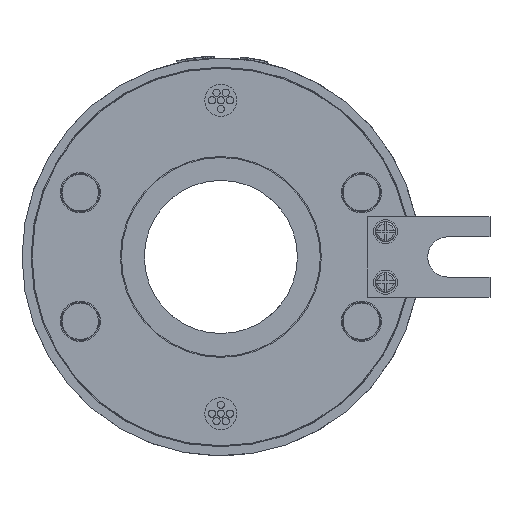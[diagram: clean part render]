
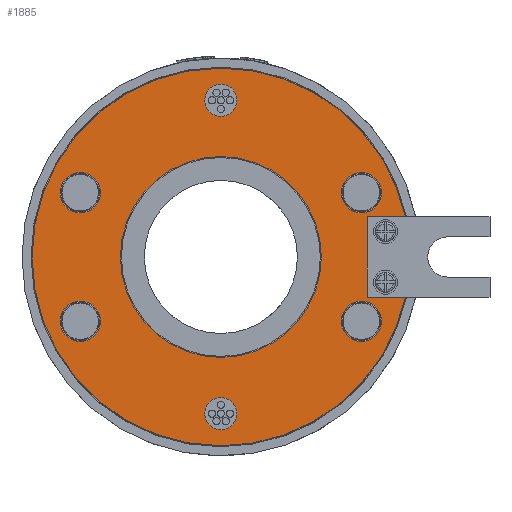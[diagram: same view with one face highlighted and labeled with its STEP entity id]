
A CAD part, front view. The second image highlights one B-rep face of the part: STEP entity #1885.
In plain terms, the highlighted planar face has unit normal (0, -1, 0).
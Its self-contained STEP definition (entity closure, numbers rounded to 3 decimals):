
#320=FACE_BOUND('',#3681,.T.);
#321=FACE_BOUND('',#3682,.T.);
#322=FACE_BOUND('',#3683,.T.);
#323=FACE_BOUND('',#3684,.T.);
#324=FACE_BOUND('',#3685,.T.);
#325=FACE_BOUND('',#3686,.T.);
#326=FACE_BOUND('',#3687,.T.);
#327=FACE_BOUND('',#3688,.T.);
#526=CIRCLE('',#10777,47.);
#527=CIRCLE('',#10778,47.);
#528=CIRCLE('',#10779,47.);
#529=CIRCLE('',#10780,4.);
#530=CIRCLE('',#10781,4.);
#531=CIRCLE('',#10782,25.);
#532=CIRCLE('',#10783,25.);
#533=CIRCLE('',#10784,5.);
#534=CIRCLE('',#10785,5.);
#535=CIRCLE('',#10786,5.);
#536=CIRCLE('',#10787,5.);
#537=CIRCLE('',#10788,5.);
#538=CIRCLE('',#10789,5.);
#539=CIRCLE('',#10790,5.);
#540=CIRCLE('',#10791,5.);
#541=CIRCLE('',#10792,4.);
#542=CIRCLE('',#10793,4.);
#1131=PLANE('',#10794);
#1365=LINE('',#30487,#2538);
#1366=LINE('',#30489,#2539);
#1367=LINE('',#30491,#2540);
#1885=ADVANCED_FACE('',(#320,#321,#322,#323,#324,#325,#326,#327),#1131,
 .F.);
#2538=VECTOR('',#12262,1.);
#2539=VECTOR('',#12263,1.);
#2540=VECTOR('',#12264,1.);
#3681=EDGE_LOOP('',(#5430,#5431,#5432,#5433,#5434,#5435));
#3682=EDGE_LOOP('',(#5436,#5437));
#3683=EDGE_LOOP('',(#5438,#5439));
#3684=EDGE_LOOP('',(#5440,#5441));
#3685=EDGE_LOOP('',(#5442,#5443));
#3686=EDGE_LOOP('',(#5444,#5445));
#3687=EDGE_LOOP('',(#5446,#5447));
#3688=EDGE_LOOP('',(#5448,#5449));
#5430=ORIENTED_EDGE('',*,*,#8966,.T.);
#5431=ORIENTED_EDGE('',*,*,#8967,.T.);
#5432=ORIENTED_EDGE('',*,*,#8968,.F.);
#5433=ORIENTED_EDGE('',*,*,#8969,.F.);
#5434=ORIENTED_EDGE('',*,*,#8970,.T.);
#5435=ORIENTED_EDGE('',*,*,#8971,.T.);
#5436=ORIENTED_EDGE('',*,*,#8972,.F.);
#5437=ORIENTED_EDGE('',*,*,#8973,.F.);
#5438=ORIENTED_EDGE('',*,*,#8974,.F.);
#5439=ORIENTED_EDGE('',*,*,#8975,.F.);
#5440=ORIENTED_EDGE('',*,*,#8976,.F.);
#5441=ORIENTED_EDGE('',*,*,#8977,.F.);
#5442=ORIENTED_EDGE('',*,*,#8978,.T.);
#5443=ORIENTED_EDGE('',*,*,#8979,.T.);
#5444=ORIENTED_EDGE('',*,*,#8980,.F.);
#5445=ORIENTED_EDGE('',*,*,#8981,.F.);
#5446=ORIENTED_EDGE('',*,*,#8982,.T.);
#5447=ORIENTED_EDGE('',*,*,#8983,.T.);
#5448=ORIENTED_EDGE('',*,*,#8984,.T.);
#5449=ORIENTED_EDGE('',*,*,#8985,.T.);
#7718=VERTEX_POINT('',#30485);
#7719=VERTEX_POINT('',#30486);
#7720=VERTEX_POINT('',#30488);
#7721=VERTEX_POINT('',#30490);
#7722=VERTEX_POINT('',#30492);
#7723=VERTEX_POINT('',#30494);
#7724=VERTEX_POINT('',#30497);
#7725=VERTEX_POINT('',#30498);
#7726=VERTEX_POINT('',#30501);
#7727=VERTEX_POINT('',#30502);
#7728=VERTEX_POINT('',#30505);
#7729=VERTEX_POINT('',#30506);
#7730=VERTEX_POINT('',#30509);
#7731=VERTEX_POINT('',#30510);
#7732=VERTEX_POINT('',#30513);
#7733=VERTEX_POINT('',#30514);
#7734=VERTEX_POINT('',#30517);
#7735=VERTEX_POINT('',#30518);
#7736=VERTEX_POINT('',#30521);
#7737=VERTEX_POINT('',#30522);
#8966=EDGE_CURVE('',#7718,#7719,#526,.T.);
#8967=EDGE_CURVE('',#7719,#7720,#1365,.T.);
#8968=EDGE_CURVE('',#7721,#7720,#1366,.T.);
#8969=EDGE_CURVE('',#7722,#7721,#1367,.T.);
#8970=EDGE_CURVE('',#7722,#7723,#527,.T.);
#8971=EDGE_CURVE('',#7723,#7718,#528,.T.);
#8972=EDGE_CURVE('',#7724,#7725,#529,.T.);
#8973=EDGE_CURVE('',#7725,#7724,#530,.T.);
#8974=EDGE_CURVE('',#7726,#7727,#531,.T.);
#8975=EDGE_CURVE('',#7727,#7726,#532,.T.);
#8976=EDGE_CURVE('',#7728,#7729,#533,.T.);
#8977=EDGE_CURVE('',#7729,#7728,#534,.T.);
#8978=EDGE_CURVE('',#7730,#7731,#535,.T.);
#8979=EDGE_CURVE('',#7731,#7730,#536,.T.);
#8980=EDGE_CURVE('',#7732,#7733,#537,.T.);
#8981=EDGE_CURVE('',#7733,#7732,#538,.T.);
#8982=EDGE_CURVE('',#7734,#7735,#539,.T.);
#8983=EDGE_CURVE('',#7735,#7734,#540,.T.);
#8984=EDGE_CURVE('',#7736,#7737,#541,.T.);
#8985=EDGE_CURVE('',#7737,#7736,#542,.T.);
#10777=AXIS2_PLACEMENT_3D('',#30484,#12260,#12261);
#10778=AXIS2_PLACEMENT_3D('',#30493,#12265,#12266);
#10779=AXIS2_PLACEMENT_3D('',#30495,#12267,#12268);
#10780=AXIS2_PLACEMENT_3D('',#30496,#12269,#12270);
#10781=AXIS2_PLACEMENT_3D('',#30499,#12271,#12272);
#10782=AXIS2_PLACEMENT_3D('',#30500,#12273,#12274);
#10783=AXIS2_PLACEMENT_3D('',#30503,#12275,#12276);
#10784=AXIS2_PLACEMENT_3D('',#30504,#12277,#12278);
#10785=AXIS2_PLACEMENT_3D('',#30507,#12279,#12280);
#10786=AXIS2_PLACEMENT_3D('',#30508,#12281,#12282);
#10787=AXIS2_PLACEMENT_3D('',#30511,#12283,#12284);
#10788=AXIS2_PLACEMENT_3D('',#30512,#12285,#12286);
#10789=AXIS2_PLACEMENT_3D('',#30515,#12287,#12288);
#10790=AXIS2_PLACEMENT_3D('',#30516,#12289,#12290);
#10791=AXIS2_PLACEMENT_3D('',#30519,#12291,#12292);
#10792=AXIS2_PLACEMENT_3D('',#30520,#12293,#12294);
#10793=AXIS2_PLACEMENT_3D('',#30523,#12295,#12296);
#10794=AXIS2_PLACEMENT_3D('',#30524,#12297,#12298);
#12260=DIRECTION('',(0.,-1.,0.));
#12261=DIRECTION('',(0.,0.,-1.));
#12262=DIRECTION('',(-1.,0.,0.));
#12263=DIRECTION('',(0.,0.,-1.));
#12264=DIRECTION('',(-1.,0.,0.));
#12265=DIRECTION('',(0.,-1.,0.));
#12266=DIRECTION('',(0.977,0.,0.213));
#12267=DIRECTION('',(0.,-1.,0.));
#12268=DIRECTION('',(0.,0.,1.));
#12269=DIRECTION('',(0.,-1.,0.));
#12270=DIRECTION('',(-1.,0.,0.));
#12271=DIRECTION('',(0.,-1.,0.));
#12272=DIRECTION('',(1.,0.,0.));
#12273=DIRECTION('',(0.,-1.,0.));
#12274=DIRECTION('',(-1.,0.,0.));
#12275=DIRECTION('',(0.,-1.,0.));
#12276=DIRECTION('',(1.,0.,0.));
#12277=DIRECTION('',(0.,-1.,0.));
#12278=DIRECTION('',(0.,0.,1.));
#12279=DIRECTION('',(0.,-1.,0.));
#12280=DIRECTION('',(0.,0.,-1.));
#12281=DIRECTION('',(0.,1.,0.));
#12282=DIRECTION('',(0.,0.,1.));
#12283=DIRECTION('',(0.,1.,0.));
#12284=DIRECTION('',(0.,0.,-1.));
#12285=DIRECTION('',(0.,-1.,0.));
#12286=DIRECTION('',(0.,0.,-1.));
#12287=DIRECTION('',(0.,-1.,0.));
#12288=DIRECTION('',(0.,0.,1.));
#12289=DIRECTION('',(0.,1.,0.));
#12290=DIRECTION('',(0.,0.,-1.));
#12291=DIRECTION('',(0.,1.,0.));
#12292=DIRECTION('',(0.,0.,1.));
#12293=DIRECTION('',(0.,1.,0.));
#12294=DIRECTION('',(-1.,0.,0.));
#12295=DIRECTION('',(0.,1.,0.));
#12296=DIRECTION('',(1.,0.,0.));
#12297=DIRECTION('',(0.,1.,0.));
#12298=DIRECTION('',(-1.,0.,0.));
#30484=CARTESIAN_POINT('',(0.,0.,0.));
#30485=CARTESIAN_POINT('',(0.,0.,-47.));
#30486=CARTESIAN_POINT('',(45.924,0.,-10.));
#30487=CARTESIAN_POINT('',(45.924,0.,-10.));
#30488=CARTESIAN_POINT('',(36.5,0.,-10.));
#30489=CARTESIAN_POINT('',(36.5,0.,10.));
#30490=CARTESIAN_POINT('',(36.5,0.,10.));
#30491=CARTESIAN_POINT('',(45.924,0.,10.));
#30492=CARTESIAN_POINT('',(45.924,0.,10.));
#30493=CARTESIAN_POINT('',(0.,0.,0.));
#30494=CARTESIAN_POINT('',(0.,0.,47.));
#30495=CARTESIAN_POINT('',(0.,0.,0.));
#30496=CARTESIAN_POINT('',(0.,0.,-39.));
#30497=CARTESIAN_POINT('',(-4.,0.,-39.));
#30498=CARTESIAN_POINT('',(4.,0.,-39.));
#30499=CARTESIAN_POINT('',(0.,0.,-39.));
#30500=CARTESIAN_POINT('',(0.,0.,0.));
#30501=CARTESIAN_POINT('',(-25.,0.,0.));
#30502=CARTESIAN_POINT('',(25.,0.,0.));
#30503=CARTESIAN_POINT('',(0.,0.,0.));
#30504=CARTESIAN_POINT('',(35.,0.,16.));
#30505=CARTESIAN_POINT('',(35.,0.,21.));
#30506=CARTESIAN_POINT('',(35.,0.,11.));
#30507=CARTESIAN_POINT('',(35.,0.,16.));
#30508=CARTESIAN_POINT('',(-35.,0.,16.));
#30509=CARTESIAN_POINT('',(-35.,0.,21.));
#30510=CARTESIAN_POINT('',(-35.,0.,11.));
#30511=CARTESIAN_POINT('',(-35.,0.,16.));
#30512=CARTESIAN_POINT('',(-35.,0.,-16.));
#30513=CARTESIAN_POINT('',(-35.,0.,-21.));
#30514=CARTESIAN_POINT('',(-35.,0.,-11.));
#30515=CARTESIAN_POINT('',(-35.,0.,-16.));
#30516=CARTESIAN_POINT('',(35.,0.,-16.));
#30517=CARTESIAN_POINT('',(35.,0.,-21.));
#30518=CARTESIAN_POINT('',(35.,0.,-11.));
#30519=CARTESIAN_POINT('',(35.,0.,-16.));
#30520=CARTESIAN_POINT('',(0.,0.,39.));
#30521=CARTESIAN_POINT('',(-4.,0.,39.));
#30522=CARTESIAN_POINT('',(4.,0.,39.));
#30523=CARTESIAN_POINT('',(0.,0.,39.));
#30524=CARTESIAN_POINT('',(0.,0.,0.));
